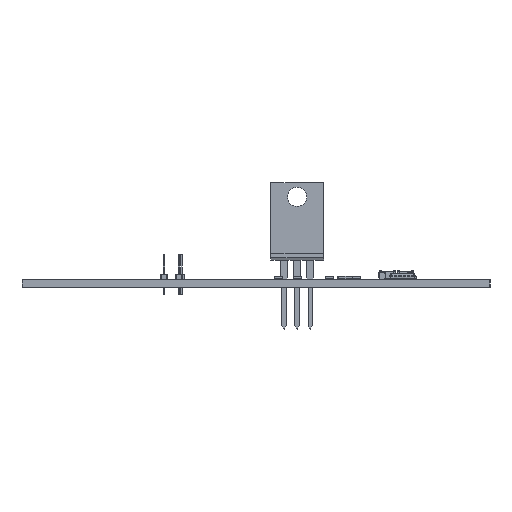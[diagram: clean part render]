
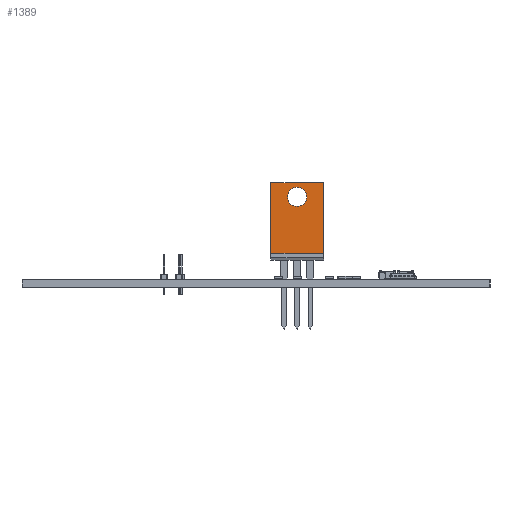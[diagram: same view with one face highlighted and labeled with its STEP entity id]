
A CAD part, left-side view. The second image highlights one B-rep face of the part: STEP entity #1389.
In plain terms, the highlighted planar face has unit normal (-1, 0, 0) as drawn and (0, 1, 0) by its records, which use the part's own axes.
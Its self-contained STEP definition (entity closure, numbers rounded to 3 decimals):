
#834 = VERTEX_POINT('',#835);
#835 = CARTESIAN_POINT('',(-2.575,3.16,18.775));
#841 = EDGE_CURVE('',#842,#834,#844,.T.);
#842 = VERTEX_POINT('',#843);
#843 = CARTESIAN_POINT('',(-2.575,3.16,5.));
#844 = LINE('',#845,#846);
#845 = CARTESIAN_POINT('',(-2.575,3.16,5.));
#846 = VECTOR('',#847,1.);
#847 = DIRECTION('',(0.,0.,1.));
#900 = VERTEX_POINT('',#901);
#901 = CARTESIAN_POINT('',(7.655,3.16,5.));
#907 = EDGE_CURVE('',#900,#908,#910,.T.);
#908 = VERTEX_POINT('',#909);
#909 = CARTESIAN_POINT('',(7.655,3.16,18.775));
#910 = LINE('',#911,#912);
#911 = CARTESIAN_POINT('',(7.655,3.16,5.));
#912 = VECTOR('',#913,1.);
#913 = DIRECTION('',(0.,0.,1.));
#932 = EDGE_CURVE('',#842,#900,#933,.T.);
#933 = LINE('',#934,#935);
#934 = CARTESIAN_POINT('',(-2.575,3.16,5.));
#935 = VECTOR('',#936,1.);
#936 = DIRECTION('',(1.,0.,0.));
#1389 = ADVANCED_FACE('',(#1390,#1401),#1412,.T.);
#1390 = FACE_BOUND('',#1391,.T.);
#1391 = EDGE_LOOP('',(#1392,#1393,#1399,#1400));
#1392 = ORIENTED_EDGE('',*,*,#841,.T.);
#1393 = ORIENTED_EDGE('',*,*,#1394,.T.);
#1394 = EDGE_CURVE('',#834,#908,#1395,.T.);
#1395 = LINE('',#1396,#1397);
#1396 = CARTESIAN_POINT('',(-2.575,3.16,18.775));
#1397 = VECTOR('',#1398,1.);
#1398 = DIRECTION('',(1.,0.,0.));
#1399 = ORIENTED_EDGE('',*,*,#907,.F.);
#1400 = ORIENTED_EDGE('',*,*,#932,.F.);
#1401 = FACE_BOUND('',#1402,.T.);
#1402 = EDGE_LOOP('',(#1403));
#1403 = ORIENTED_EDGE('',*,*,#1404,.T.);
#1404 = EDGE_CURVE('',#1405,#1405,#1407,.T.);
#1405 = VERTEX_POINT('',#1406);
#1406 = CARTESIAN_POINT('',(4.408,3.16,16.005));
#1407 = CIRCLE('',#1408,1.868);
#1408 = AXIS2_PLACEMENT_3D('',#1409,#1410,#1411);
#1409 = CARTESIAN_POINT('',(2.54,3.16,16.005));
#1410 = DIRECTION('',(0.,-1.,0.));
#1411 = DIRECTION('',(1.,0.,0.));
#1412 = PLANE('',#1413);
#1413 = AXIS2_PLACEMENT_3D('',#1414,#1415,#1416);
#1414 = CARTESIAN_POINT('',(-2.575,3.16,5.));
#1415 = DIRECTION('',(0.,1.,0.));
#1416 = DIRECTION('',(1.,0.,0.));
